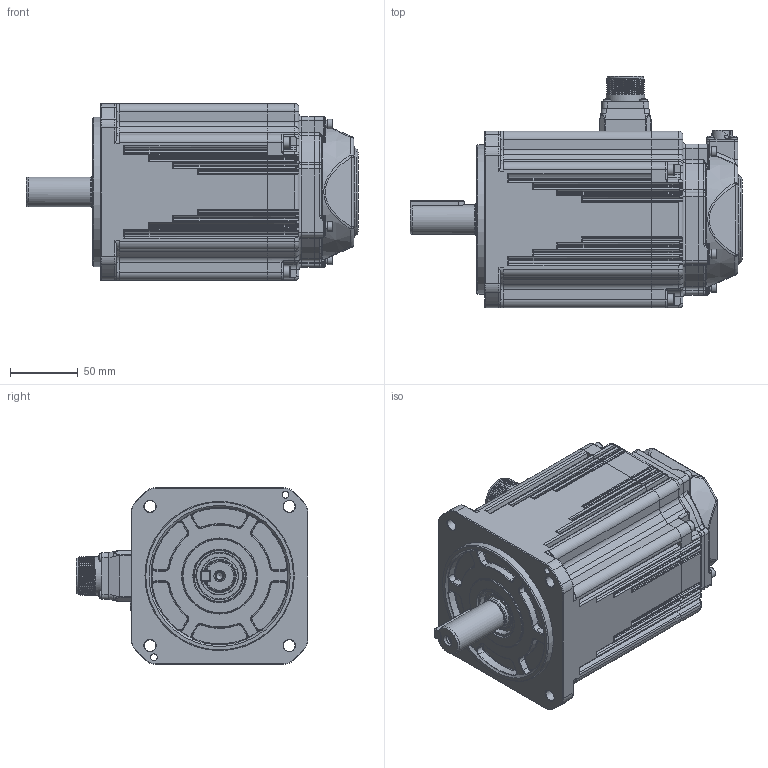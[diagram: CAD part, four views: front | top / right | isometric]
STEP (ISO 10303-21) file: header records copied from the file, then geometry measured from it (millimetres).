
FILE_DESCRIPTION (( 'STEP AP203' ), '1' );
FILE_NAME ('俋倛芞ACM2M-1318B.STEP', '2023-01-10T03:40:46', ( '' ), ( '' ), 'SwSTEP 2.0', 'SolidWorks 2021', '' );
FILE_SCHEMA (( 'CONFIG_CONTROL_DESIGN' ));
Length unit declared in the file: millimetre
Products named in the file (11): 130前端盖0.85、1.3、1.8_成品-1.8; 俋倛芞ACM2M-1318B; 130价陬綴傷裔 詢39.3 ADC12 LM RoHS_傖こ; 130蛌粣09-XX 粣扥耳22 40Cr DC RoHS_LX晤鎢ん; C型平键8×7×45螺纹拆卸型; 2M-编码盖+插座+螺钉; 綴傷裔蹟隊_M5℅20; 航插动力接插件 4芯 SZ RoHS_6芯; 130瑤脣假蚾釱; 萇埭脣釱蹟隊_M3℅10; ﾓﾍｷ筌ｻTC｣ｻ24｡ﾁ38｡ﾁ7｣ｻSOG
Assembly tree (16 placements, depth 2):
  俋倛芞ACM2M-1318B
    130前端盖0.85、1.3、1.8_成品-1.8
    130蛌粣09-XX 粣扥耳22 40Cr DC RoHS_LX晤鎢ん
    130价陬綴傷裔 詢39.3 ADC12 LM RoHS_傖こ
    綴傷裔蹟隊_M5℅20  x4
    130瑤脣假蚾釱
    航插动力接插件 4芯 SZ RoHS_6芯
    萇埭脣釱蹟隊_M3℅10  x4
    ﾓﾍｷ筌ｻTC｣ｻ24｡ﾁ38｡ﾁ7｣ｻSOG
    C型平键8×7×45螺纹拆卸型
    2M-编码盖+插座+螺钉
Bounding box: 244.5 x 170.7 x 130 mm (x, y, z)
Volume: 2667149 mm3; surface area: 231516.8 mm2
Topology: 34 solids, 46 shells, 3131 faces, 8024 edges, 4978 vertices
Faces by surface type: plane 1256, cylinder 915, torus 454, bspline 405, cone 76, sphere 25
Full cylindrical faces by diameter (mm): 0.75 x10, 1.007 x10, 1.5 x9, 1.6 x2, 1.68 x2, 2.2 x1, 2.4 x4, 2.48 x4, 2.5 x8, 2.598 x8, 2.6 x1, 3 x8, 3.2 x10, 3.3 x5, 3.5 x4, 3.9 x4, 4 x4, 4.2 x4, 4.5 x8, 5 x7, 5.5 x4, 5.6 x8, 6.4 x1, 7 x4, 8.5 x8, 9 x4, 11.8 x1, 13 x1, 13.2 x1, 15.2 x1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
Entity records: 119538 total; most frequent: CARTESIAN_POINT 50949, ORIENTED_EDGE 14344, DIRECTION 13259, EDGE_CURVE 7172, AXIS2_PLACEMENT_3D 5059, VERTEX_POINT 4649, EDGE_LOOP 3453, FACE_OUTER_BOUND 3191
